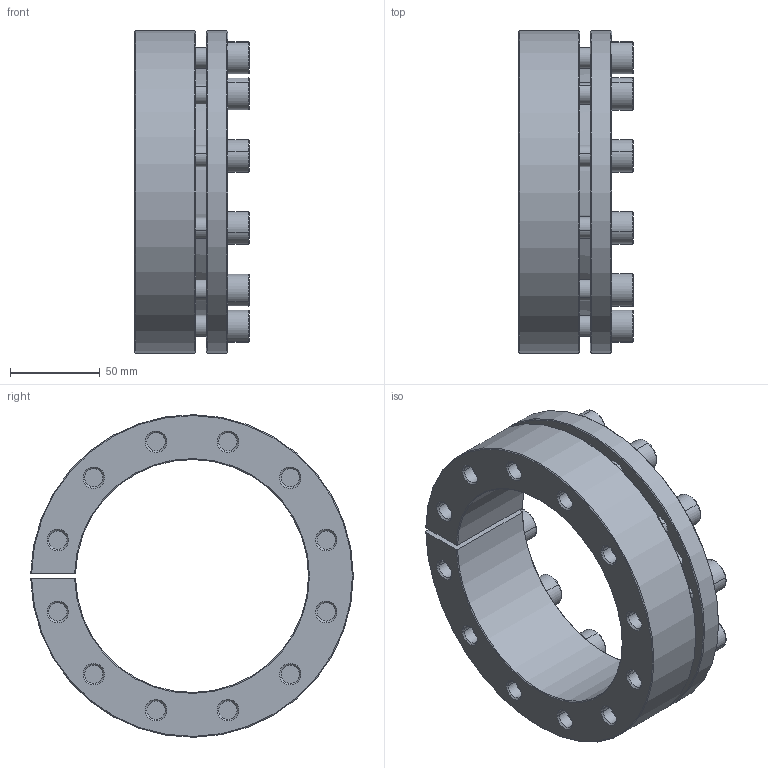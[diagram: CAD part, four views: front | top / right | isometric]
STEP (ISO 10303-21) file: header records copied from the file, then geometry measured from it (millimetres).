
FILE_DESCRIPTION((''),'2;1');
FILE_NAME('398-010-0130','2024-02-17T',('Brieden'),('Brieden'),'PRO/ENGINEER BY PARAMETRIC TECHNOLOGY CORPORATION, 2010160','PRO/ENGINEER BY PARAMETRIC TECHNOLOGY CORPORATION, 2010160','');
FILE_SCHEMA(('AUTOMOTIVE_DESIGN { 1 0 10303 214 1 1 1 1 }'));
Length unit declared in the file: millimetre
Products named in the file (1): 398-010-0130
Bounding box: 64 x 179.99 x 179.99 mm (x, y, z)
Volume: 591900.7 mm3; surface area: 135847.8 mm2
Topology: 1 solids, 13 shells, 340 faces, 798 edges, 508 vertices
Faces by surface type: cylinder 135, plane 126, cone 55, torus 24
Entity records: 12618 total; most frequent: DIRECTION 1844, CARTESIAN_POINT 1719, ORIENTED_EDGE 1548, PRESENTATION_STYLE_ASSIGNMENT 825, STYLED_ITEM 811, CURVE_STYLE 798, EDGE_CURVE 798, AXIS2_PLACEMENT_3D 717
